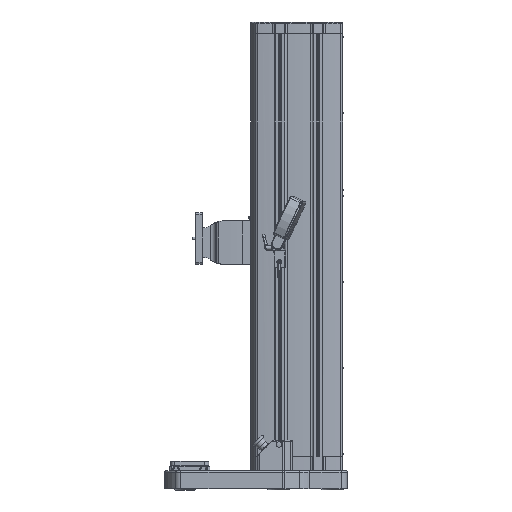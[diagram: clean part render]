
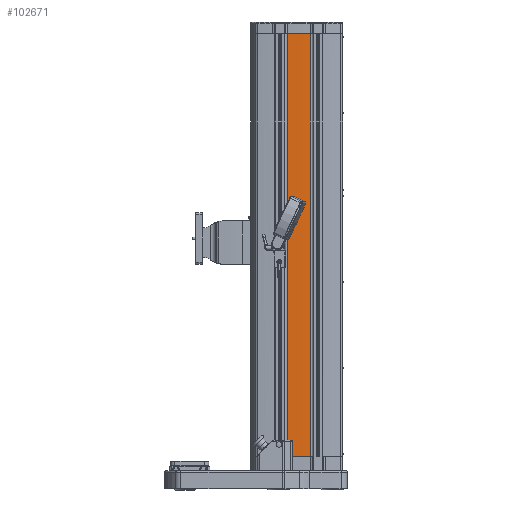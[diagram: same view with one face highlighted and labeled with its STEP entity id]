
A CAD part, front view. The second image highlights one B-rep face of the part: STEP entity #102671.
In plain terms, the highlighted cylindrical face has radius 887.984 mm (diameter 1775.97 mm), a partial arc.
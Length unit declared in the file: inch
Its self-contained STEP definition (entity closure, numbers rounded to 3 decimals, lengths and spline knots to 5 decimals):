
#84954=CARTESIAN_POINT('',(69.89683,26.6481,-31.66682));
#84955=VERTEX_POINT('',#84954);
#84963=CARTESIAN_POINT('',(67.46964,26.64806,-31.66682));
#84964=VERTEX_POINT('',#84963);
#84965=CARTESIAN_POINT('',(68.68258,61.58701,-31.66682));
#84966=DIRECTION('',(0.,0.,-1.));
#84967=DIRECTION('',(0.,-1.,0.));
#84968=AXIS2_PLACEMENT_3D('',#84965,#84966,#84967);
#84969=CIRCLE('',#84968,34.96);
#84970=EDGE_CURVE('',#84955,#84964,#84969,.T.);
#102627=CARTESIAN_POINT('',(69.89683,26.6481,14.78318));
#102628=VERTEX_POINT('',#102627);
#102629=CARTESIAN_POINT('',(69.89683,26.6481,-31.66682));
#102630=DIRECTION('',(0.0,0.0,1.0));
#102631=VECTOR('',#102630,46.45);
#102632=LINE('',#102629,#102631);
#102633=EDGE_CURVE('',#84955,#102628,#102632,.T.);
#102647=CARTESIAN_POINT('',(68.68258,61.58701,-31.66682));
#102648=DIRECTION('',(0.,0.,1.0));
#102649=DIRECTION('',(0.,-1.,0.));
#102650=AXIS2_PLACEMENT_3D('',#102647,#102648,#102649);
#102651=CYLINDRICAL_SURFACE('',#102650,34.96);
#102652=ORIENTED_EDGE('',*,*,#84970,.F.);
#102653=ORIENTED_EDGE('',*,*,#102633,.T.);
#102654=CARTESIAN_POINT('',(67.46964,26.64806,14.78318));
#102655=VERTEX_POINT('',#102654);
#102656=CARTESIAN_POINT('',(68.68258,61.58701,14.78318));
#102657=DIRECTION('',(0.,0.,-1.));
#102658=DIRECTION('',(0.,-1.,0.));
#102659=AXIS2_PLACEMENT_3D('',#102656,#102657,#102658);
#102660=CIRCLE('',#102659,34.96);
#102661=EDGE_CURVE('',#102628,#102655,#102660,.T.);
#102662=ORIENTED_EDGE('',*,*,#102661,.T.);
#102663=CARTESIAN_POINT('',(67.46964,26.64806,-31.66682));
#102664=DIRECTION('',(0.0,0.0,1.0));
#102665=VECTOR('',#102664,46.45);
#102666=LINE('',#102663,#102665);
#102667=EDGE_CURVE('',#84964,#102655,#102666,.T.);
#102668=ORIENTED_EDGE('',*,*,#102667,.F.);
#102669=EDGE_LOOP('',(#102652,#102653,#102662,#102668));
#102670=FACE_OUTER_BOUND('',#102669,.T.);
#102671=ADVANCED_FACE('',(#102670),#102651,.T.);
